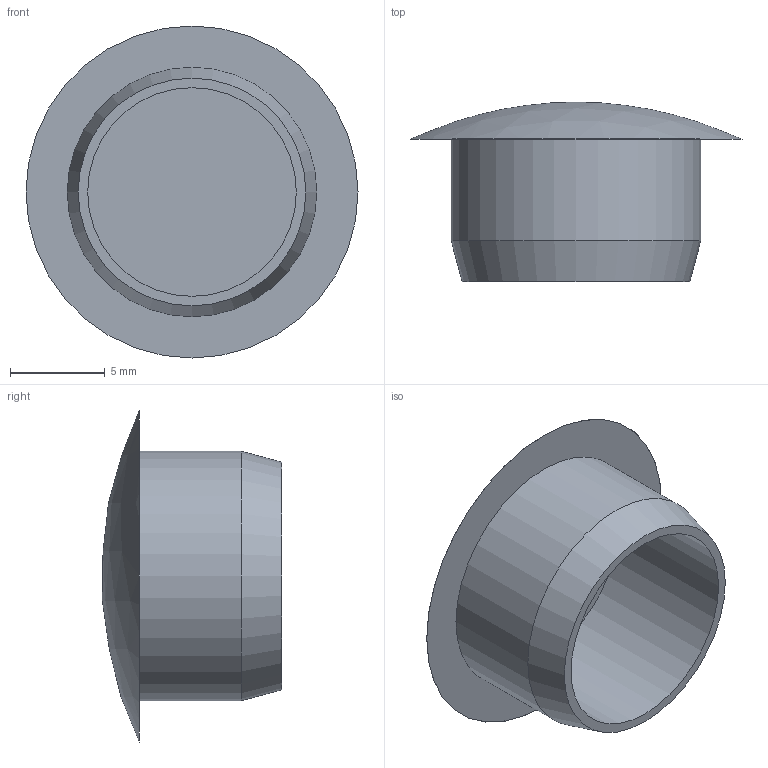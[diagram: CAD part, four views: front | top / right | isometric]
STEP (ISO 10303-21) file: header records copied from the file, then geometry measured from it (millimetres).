
FILE_DESCRIPTION (( 'STEP AP214' ), '1' );
FILE_NAME ('SL01011.step', '2024-12-03T16:30:39', ( '' ), ( '' ), 'SwSTEP 2.0', 'SolidWorks 2023', '' );
FILE_SCHEMA (( 'AUTOMOTIVE_DESIGN' ));
Length unit declared in the file: millimetre
Products named in the file (1): SL01011
Bounding box: 17.5 x 9.46 x 17.5 mm (x, y, z)
Volume: 526.5 mm3; surface area: 1039.3 mm2
Topology: 1 solids, 1 shells, 8 faces, 11 edges, 7 vertices
Faces by surface type: cylinder 3, plane 3, sphere 1, cone 1
Full cylindrical faces by diameter (mm): 11 x1, 13.15 x1, 17.5 x1
Entity records: 177 total; most frequent: DIRECTION 32, CARTESIAN_POINT 23, AXIS2_PLACEMENT_3D 16, ORIENTED_EDGE 14, EDGE_LOOP 14, FACE_OUTER_BOUND 11, ADVANCED_FACE 8, CIRCLE 7
